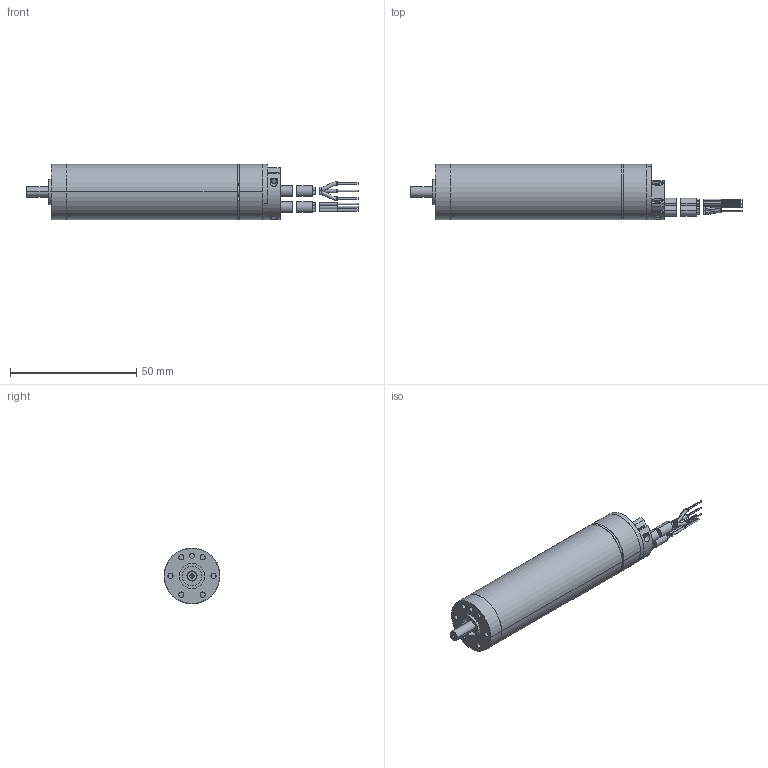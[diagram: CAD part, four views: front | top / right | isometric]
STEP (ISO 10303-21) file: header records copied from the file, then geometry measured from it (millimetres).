
FILE_DESCRIPTION((''),'2;1');
FILE_NAME('426448_EC22_80W_HD_A','2016-10-17T',('mmagpetk'),(''),'CREO PARAMETRIC BY PTC INC, 2016050','CREO PARAMETRIC BY PTC INC, 2016050','');
FILE_SCHEMA(('CONFIG_CONTROL_DESIGN'));
Length unit declared in the file: millimetre
Products named in the file (1): 426448_EC22_80W_HD_A
Bounding box: 131.3 x 22 x 22.03 mm (x, y, z)
Volume: 33708.7 mm3; surface area: 8661.9 mm2
Topology: 11 solids, 11 shells, 279 faces, 620 edges, 399 vertices
Faces by surface type: cylinder 144, plane 103, cone 22, bspline 6, sphere 4
Entity records: 11935 total; most frequent: CARTESIAN_POINT 2052, DIRECTION 1426, ORIENTED_EDGE 1236, PRESENTATION_STYLE_ASSIGNMENT 825, STYLED_ITEM 629, CURVE_STYLE 618, EDGE_CURVE 618, AXIS2_PLACEMENT_3D 581
